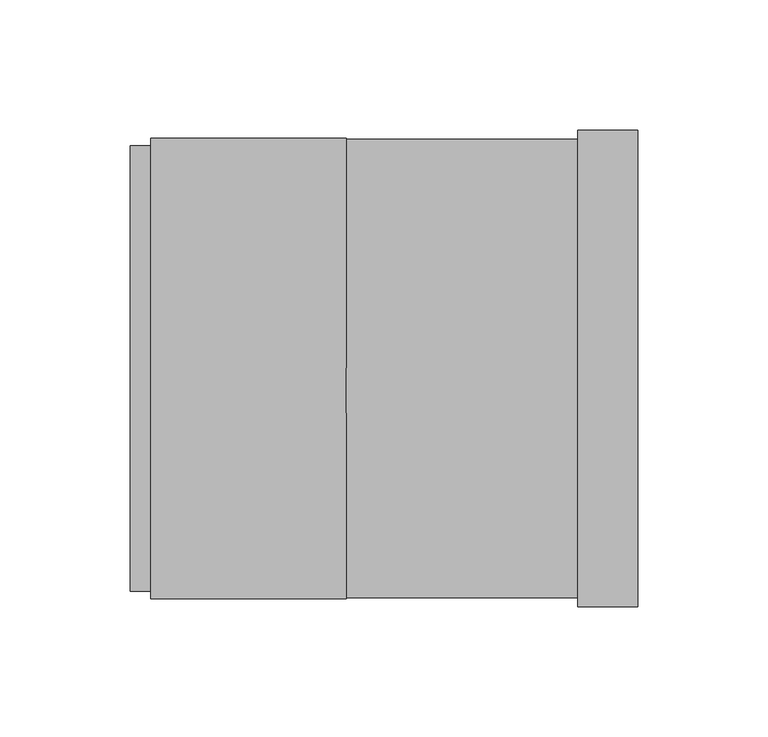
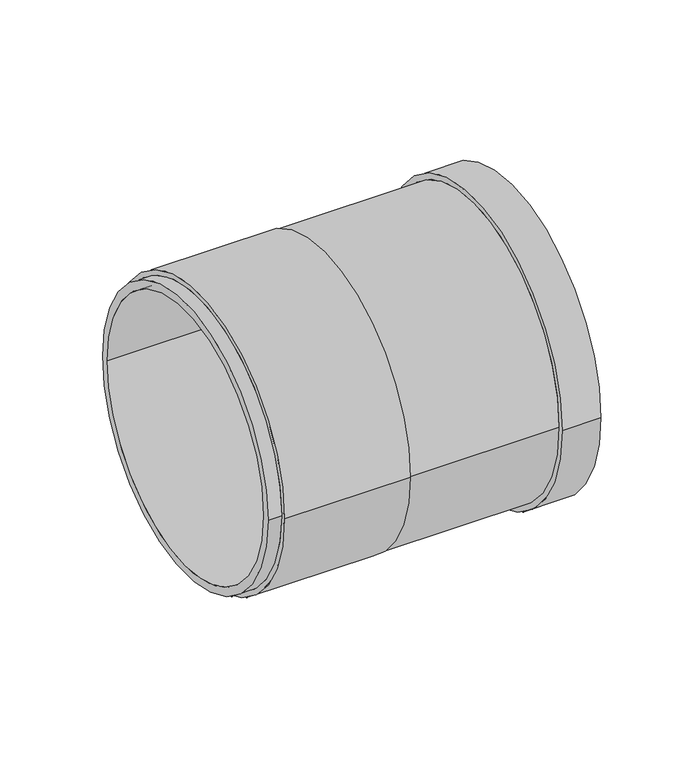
"""IFC4 building model written with IfcOpenShell, lengths in millimetres: pipe fitting geometry, Pipelife - Pragma OD - Łącznik kanalizacyjny : Pipelife - Pragma OD - Łącznik kanalizacyjny."""

from ifc_helpers import new_model, si_unit, frame, origin, place, context, project, spatial, polyline, circle_curve, source, transform, mapped, element, save
from ifc_brep_helpers import plane_surface, cylinder_surface, revolved_surface, advanced_brep


def pipe_fitting_fdf45396(model_context):
    return source(origin(), model_context, "Body", "AdvancedBrep", [
        advanced_brep(
        [(0.0, -88.0, 0.0), (89.0, -88.0, 0.0), (89.0, 88.0, 0.0), (0.0, 88.0, 0.0), (4.0, -80.5, 0.0), (4.0, 80.5, 0.0), (112.0, 80.5, 0.0), (112.0, -80.5, 0.0), (89.0, -91.5, 0.0), (89.0, 91.5, 0.0), (112.0, -91.5, 0.0), (112.0, 91.5, 0.0), (-75.0, -88.5, 0.0), (-75.0, 88.5, 0.0), (-75.0, 85.5, 0.0), (-75.0, -85.5, 0.0), (0.0, -88.5, 0.0), (0.0, 88.5, 0.0), (-5.0, -80.5, 0.0), (-5.0, 80.5, 0.0), (-83.0, -80.5, 0.0), (-83.0, 80.5, 0.0), (-83.0, -85.5, 0.0), (-83.0, 85.5, 0.0)],
        [
            (0, 1),
            (1, 2, circle_curve(frame((89.0, 0.0, 0.0), z_axis=(-1.0, 0.0, 0.0), x_axis=(0.0, 1.0, 0.0)), 88.0)),
            (2, 3),
            (3, 0, circle_curve(frame((0.0, 0.0, 0.0), z_axis=(1.0, 0.0, 0.0), x_axis=(0.0, 1.0, 0.0)), 88.0)),
            (0, 3, circle_curve(frame((0.0, 0.0, 0.0), z_axis=(1.0, 0.0, 0.0), x_axis=(0.0, 1.0, 0.0)), 88.0)),
            (2, 1, circle_curve(frame((89.0, 0.0, 0.0), z_axis=(-1.0, 0.0, 0.0), x_axis=(0.0, 1.0, 0.0)), 88.0)),
            (4, 5, circle_curve(frame((4.0, 0.0, 0.0), z_axis=(1.0, 0.0, 0.0), x_axis=(0.0, 1.0, 0.0)), 80.5)),
            (5, 4, circle_curve(frame((4.0, 0.0, 0.0), z_axis=(1.0, 0.0, 0.0), x_axis=(0.0, 1.0, 0.0)), 80.5)),
            (5, 6),
            (6, 7, circle_curve(frame((112.0, 0.0, 0.0), z_axis=(1.0, 0.0, 0.0), x_axis=(0.0, 1.0, 0.0)), 80.5)),
            (7, 4),
            (7, 6, circle_curve(frame((112.0, 0.0, 0.0), z_axis=(1.0, 0.0, 0.0), x_axis=(0.0, 1.0, 0.0)), 80.5)),
            (8, 9, circle_curve(frame((89.0, 0.0, 0.0), z_axis=(-1.0, 0.0, 0.0), x_axis=(0.0, 1.0, 0.0)), 91.5)),
            (9, 8, circle_curve(frame((89.0, 0.0, 0.0), z_axis=(-1.0, 0.0, 0.0), x_axis=(0.0, 1.0, 0.0)), 91.5)),
            (10, 11, circle_curve(frame((112.0, 0.0, 0.0), z_axis=(1.0, 0.0, 0.0), x_axis=(0.0, 1.0, 0.0)), 91.5)),
            (11, 10, circle_curve(frame((112.0, 0.0, 0.0), z_axis=(1.0, 0.0, 0.0), x_axis=(0.0, 1.0, 0.0)), 91.5)),
            (9, 11),
            (10, 8),
            (12, 13, circle_curve(frame((-75.0, 0.0, 0.0), z_axis=(-1.0, 0.0, 0.0), x_axis=(0.0, 1.0, 0.0)), 88.5)),
            (13, 12, circle_curve(frame((-75.0, 0.0, 0.0), z_axis=(-1.0, 0.0, 0.0), x_axis=(0.0, 1.0, 0.0)), 88.5)),
            (14, 15, circle_curve(frame((-75.0, 0.0, 0.0), z_axis=(1.0, 0.0, 0.0), x_axis=(0.0, 1.0, 0.0)), 85.5)),
            (15, 14, circle_curve(frame((-75.0, 0.0, 0.0), z_axis=(1.0, 0.0, 0.0), x_axis=(0.0, 1.0, 0.0)), 85.5)),
            (16, 17, circle_curve(frame((0.0, 0.0, 0.0), z_axis=(1.0, 0.0, 0.0), x_axis=(0.0, 1.0, 0.0)), 88.5)),
            (17, 16, circle_curve(frame((0.0, 0.0, 0.0), z_axis=(1.0, 0.0, 0.0), x_axis=(0.0, 1.0, 0.0)), 88.5)),
            (12, 16),
            (17, 13),
            (18, 19, circle_curve(frame((-5.0, 0.0, 0.0), z_axis=(-1.0, 0.0, 0.0), x_axis=(0.0, 1.0, 0.0)), 80.5)),
            (19, 18, circle_curve(frame((-5.0, 0.0, 0.0), z_axis=(-1.0, 0.0, 0.0), x_axis=(0.0, 1.0, 0.0)), 80.5)),
            (18, 20),
            (20, 21, circle_curve(frame((-83.0, 0.0, 0.0), z_axis=(-1.0, 0.0, 0.0), x_axis=(0.0, 1.0, 0.0)), 80.5)),
            (21, 19),
            (21, 20, circle_curve(frame((-83.0, 0.0, 0.0), z_axis=(-1.0, 0.0, 0.0), x_axis=(0.0, 1.0, 0.0)), 80.5)),
            (22, 23, circle_curve(frame((-83.0, 0.0, 0.0), z_axis=(-1.0, 0.0, 0.0), x_axis=(0.0, 1.0, 0.0)), 85.5)),
            (23, 22, circle_curve(frame((-83.0, 0.0, 0.0), z_axis=(-1.0, 0.0, 0.0), x_axis=(0.0, 1.0, 0.0)), 85.5)),
            (22, 15),
            (14, 23),
        ],
        [
            cylinder_surface(frame((0.0, 0.0, 0.0), z_axis=(-1.0, 0.0, 0.0), x_axis=(0.0, 1.0, 0.0)), 88.0),
            plane_surface(frame((4.0, 0.0, 0.0), z_axis=(1.0, 0.0, 0.0), x_axis=(0.0, 0.0, 1.0))),
            revolved_surface(polyline([(4.0, 80.5, 0.0), (112.0, 80.5, 0.0)]), (4.0, 0.0, 0.0), (-1.0, 0.0, 0.0)),
            plane_surface(frame((89.0, 0.0, 0.0), z_axis=(-1.0, 0.0, 0.0), x_axis=(0.0, 0.0, 1.0))),
            plane_surface(frame((112.0, 0.0, 0.0), z_axis=(1.0, 0.0, 0.0), x_axis=(0.0, 0.0, 1.0))),
            cylinder_surface(frame((89.0, 0.0, 0.0), z_axis=(-1.0, 0.0, 0.0), x_axis=(0.0, 1.0, 0.0)), 91.5),
            plane_surface(frame((-75.0, 0.0, 0.0), z_axis=(-1.0, 0.0, 0.0), x_axis=(0.0, 0.0, 1.0))),
            plane_surface(frame((0.0, 0.0, 0.0), z_axis=(1.0, 0.0, 0.0), x_axis=(0.0, 0.0, 1.0))),
            cylinder_surface(frame((-75.0, 0.0, 0.0), z_axis=(-1.0, 0.0, 0.0), x_axis=(0.0, 1.0, 0.0)), 88.5),
            plane_surface(frame((-5.0, 0.0, 0.0), z_axis=(-1.0, 0.0, 0.0), x_axis=(0.0, 0.0, 1.0))),
            revolved_surface(polyline([(-83.0, 80.5, 0.0), (-5.0, 80.5, 0.0)]), (-83.0, 0.0, 0.0), (-1.0, 0.0, 0.0)),
            plane_surface(frame((-83.0, 0.0, 0.0), z_axis=(-1.0, 0.0, 0.0), x_axis=(0.0, 0.0, 1.0))),
            cylinder_surface(frame((-83.0, 0.0, 0.0), z_axis=(-1.0, 0.0, 0.0), x_axis=(0.0, 1.0, 0.0)), 85.5),
        ],
        [
            (0, [[1, 2, 3, 4]]),
            (0, [[-1, 5, -3, 6]]),
            (1, [[7, 8]]),
            (2, [[-8, 9, 10, 11]]),
            (2, [[-7, -11, 12, -9]]),
            (3, [[13, 14], [-2, -6]]),
            (4, [[15, 16], [-10, -12]]),
            (5, [[-14, 17, -15, 18]]),
            (5, [[-13, -18, -16, -17]]),
            (6, [[19, 20], [21, 22]]),
            (7, [[23, 24], [-4, -5]]),
            (8, [[-19, 25, -24, 26]]),
            (8, [[-20, -26, -23, -25]]),
            (9, [[27, 28]]),
            (10, [[-27, 29, 30, 31]]),
            (10, [[-28, -31, 32, -29]]),
            (11, [[33, 34], [-30, -32]]),
            (12, [[-33, 35, -21, 36]]),
            (12, [[-34, -36, -22, -35]]),
        ],
    ),
    ])


if __name__ == "__main__":
    model = new_model("IFC4")
    model_context = context("Model", 3, world=origin())
    ifc_project = project(units=[si_unit("LENGTHUNIT", "METRE", prefix="MILLI")], contexts=[model_context])
    site = spatial("IfcSite", under=ifc_project)
    building = spatial("IfcBuilding", under=site)
    placement = place(None, origin())
    pipe_fitting_shape = pipe_fitting_fdf45396(model_context)
    element("IfcPipeFitting", 1, ObjectType="Pipelife - Pragma OD - Łącznik kanalizacyjny : Pipelife - Pragma OD - Łącznik kanalizacyjny", at=placement, inside=building, context=model_context, shape_type="MappedRepresentation", body=[
        mapped(pipe_fitting_shape, transform((0.0, 0.0, 0.0), x_axis=(1.0, 0.0, 0.0), y_axis=(0.0, 1.0, 0.0), z_axis=(0.0, 0.0, 1.0))),
    ])
    save(model, "model.ifc")
